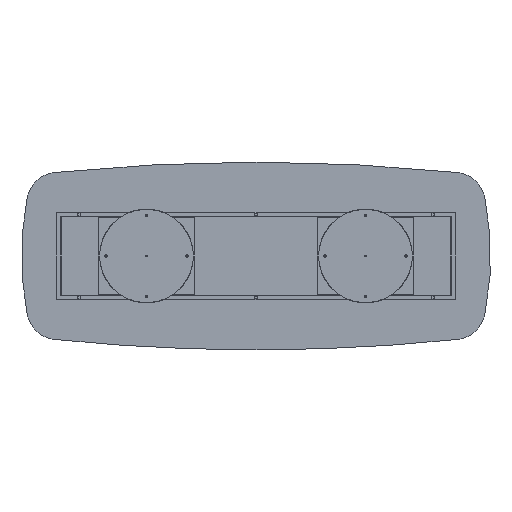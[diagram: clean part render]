
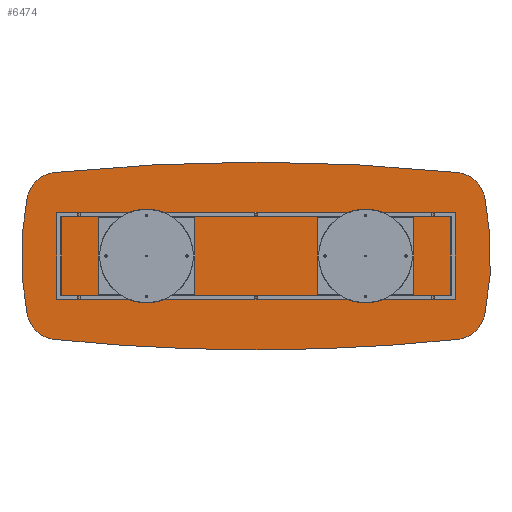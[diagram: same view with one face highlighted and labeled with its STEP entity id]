
A CAD part, front view. The second image highlights one B-rep face of the part: STEP entity #6474.
In plain terms, the highlighted planar face has unit normal (0, -1, 0).
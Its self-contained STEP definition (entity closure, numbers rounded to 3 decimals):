
#158 = CIRCLE ( 'NONE', #8397, 12500. ) ;
#172 = AXIS2_PLACEMENT_3D ( 'NONE', #3042, #337, #10621 ) ;
#304 = DIRECTION ( 'NONE',  ( 0., 0., 1. ) ) ;
#337 = DIRECTION ( 'NONE',  ( 0., 1., 0. ) ) ;
#363 = ORIENTED_EDGE ( 'NONE', *, *, #8577, .F. ) ;
#617 = EDGE_CURVE ( 'NONE', #10071, #10740, #6760, .T. ) ;
#678 = FACE_OUTER_BOUND ( 'NONE', #8168, .T. ) ;
#717 = AXIS2_PLACEMENT_3D ( 'NONE', #4534, #8177, #11202 ) ;
#1010 = CARTESIAN_POINT ( 'NONE',  ( -1462.835, 0., 373.961 ) ) ;
#1140 = CIRCLE ( 'NONE', #2910, 200. ) ;
#1155 = CIRCLE ( 'NONE', #8029, 1900. ) ;
#1316 = VERTEX_POINT ( 'NONE', #8566 ) ;
#1348 = VERTEX_POINT ( 'NONE', #1373 ) ;
#1373 = CARTESIAN_POINT ( 'NONE',  ( 1462.835, 0., -373.961 ) ) ;
#1411 = DIRECTION ( 'NONE',  ( 0., 0., 1. ) ) ;
#2207 = CARTESIAN_POINT ( 'NONE',  ( 1266.747, 0., 334.597 ) ) ;
#2443 = AXIS2_PLACEMENT_3D ( 'NONE', #5395, #9186, #3697 ) ;
#2459 = ORIENTED_EDGE ( 'NONE', *, *, #9929, .T. ) ;
#2500 = EDGE_CURVE ( 'NONE', #3304, #1316, #3268, .T. ) ;
#2779 = EDGE_CURVE ( 'NONE', #10071, #2920, #4047, .T. ) ;
#2910 = AXIS2_PLACEMENT_3D ( 'NONE', #2207, #8610, #5953 ) ;
#2920 = VERTEX_POINT ( 'NONE', #1010 ) ;
#3042 = CARTESIAN_POINT ( 'NONE',  ( -400., 0., 0. ) ) ;
#3131 = CARTESIAN_POINT ( 'NONE',  ( -1266.747, 0., 334.597 ) ) ;
#3240 = DIRECTION ( 'NONE',  ( 0., -1., 0. ) ) ;
#3265 = AXIS2_PLACEMENT_3D ( 'NONE', #10761, #5371, #9047 ) ;
#3268 = CIRCLE ( 'NONE', #717, 200. ) ;
#3304 = VERTEX_POINT ( 'NONE', #8889 ) ;
#3363 = DIRECTION ( 'NONE',  ( 0., 0., 1. ) ) ;
#3389 = PLANE ( 'NONE',  #10095 ) ;
#3697 = DIRECTION ( 'NONE',  ( 0., 0., 1. ) ) ;
#4047 = CIRCLE ( 'NONE', #6014, 200. ) ;
#4106 = CARTESIAN_POINT ( 'NONE',  ( 0., 0., 11900. ) ) ;
#4131 = CARTESIAN_POINT ( 'NONE',  ( 1287.344, 0., -533.533 ) ) ;
#4231 = DIRECTION ( 'NONE',  ( 0., 0., 1. ) ) ;
#4534 = CARTESIAN_POINT ( 'NONE',  ( -1266.747, 0., -334.597 ) ) ;
#5190 = DIRECTION ( 'NONE',  ( 0., 0., 1. ) ) ;
#5371 = DIRECTION ( 'NONE',  ( 0., 1., 0. ) ) ;
#5395 = CARTESIAN_POINT ( 'NONE',  ( 0., 0., -11900. ) ) ;
#5737 = CARTESIAN_POINT ( 'NONE',  ( 1287.344, 0., 533.533 ) ) ;
#5816 = ORIENTED_EDGE ( 'NONE', *, *, #617, .F. ) ;
#5910 = CARTESIAN_POINT ( 'NONE',  ( 0., 0., -600. ) ) ;
#5953 = DIRECTION ( 'NONE',  ( 0., 0., 1. ) ) ;
#6014 = AXIS2_PLACEMENT_3D ( 'NONE', #3131, #3240, #5190 ) ;
#6071 = DIRECTION ( 'NONE',  ( 0., -1., 0. ) ) ;
#6126 = CARTESIAN_POINT ( 'NONE',  ( 1266.747, 0., -334.597 ) ) ;
#6167 = CARTESIAN_POINT ( 'NONE',  ( 400., 0., 0. ) ) ;
#6310 = ORIENTED_EDGE ( 'NONE', *, *, #6888, .T. ) ;
#6474 = ADVANCED_FACE ( 'NONE', ( #678 ), #3389, .F. ) ;
#6760 = CIRCLE ( 'NONE', #2443, 12500. ) ;
#6888 = EDGE_CURVE ( 'NONE', #7767, #1348, #11281, .T. ) ;
#6981 = DIRECTION ( 'NONE',  ( 0., 1., 0. ) ) ;
#7000 = DIRECTION ( 'NONE',  ( 0., 1., 0. ) ) ;
#7077 = VERTEX_POINT ( 'NONE', #8777 ) ;
#7431 = CARTESIAN_POINT ( 'NONE',  ( -1287.344, 0., 533.533 ) ) ;
#7767 = VERTEX_POINT ( 'NONE', #4131 ) ;
#8002 = DIRECTION ( 'NONE',  ( 0., 1., 0. ) ) ;
#8029 = AXIS2_PLACEMENT_3D ( 'NONE', #6167, #6981, #3363 ) ;
#8059 = ORIENTED_EDGE ( 'NONE', *, *, #2500, .T. ) ;
#8168 = EDGE_LOOP ( 'NONE', ( #5816, #11840, #11869, #8059, #363, #10920, #6310, #11184, #2459 ) ) ;
#8177 = DIRECTION ( 'NONE',  ( 0., -1., 0. ) ) ;
#8228 = CIRCLE ( 'NONE', #172, 1900. ) ;
#8397 = AXIS2_PLACEMENT_3D ( 'NONE', #4106, #7000, #304 ) ;
#8562 = CIRCLE ( 'NONE', #3265, 12500. ) ;
#8566 = CARTESIAN_POINT ( 'NONE',  ( -1287.344, 0., -533.533 ) ) ;
#8577 = EDGE_CURVE ( 'NONE', #9397, #1316, #8562, .T. ) ;
#8610 = DIRECTION ( 'NONE',  ( 0., -1., 0. ) ) ;
#8777 = CARTESIAN_POINT ( 'NONE',  ( 1462.835, 0., 373.961 ) ) ;
#8889 = CARTESIAN_POINT ( 'NONE',  ( -1462.835, 0., -373.961 ) ) ;
#9047 = DIRECTION ( 'NONE',  ( 0., 0., 1. ) ) ;
#9186 = DIRECTION ( 'NONE',  ( 0., 1., 0. ) ) ;
#9397 = VERTEX_POINT ( 'NONE', #5910 ) ;
#9820 = EDGE_CURVE ( 'NONE', #7767, #9397, #158, .T. ) ;
#9929 = EDGE_CURVE ( 'NONE', #7077, #10740, #1140, .T. ) ;
#9977 = CARTESIAN_POINT ( 'NONE',  ( -200., 0., 5950. ) ) ;
#10071 = VERTEX_POINT ( 'NONE', #7431 ) ;
#10095 = AXIS2_PLACEMENT_3D ( 'NONE', #9977, #8002, #4231 ) ;
#10428 = EDGE_CURVE ( 'NONE', #3304, #2920, #1155, .T. ) ;
#10621 = DIRECTION ( 'NONE',  ( 0., 0., 1. ) ) ;
#10740 = VERTEX_POINT ( 'NONE', #5737 ) ;
#10761 = CARTESIAN_POINT ( 'NONE',  ( 0., 0., 11900. ) ) ;
#10892 = AXIS2_PLACEMENT_3D ( 'NONE', #6126, #6071, #1411 ) ;
#10920 = ORIENTED_EDGE ( 'NONE', *, *, #9820, .F. ) ;
#11184 = ORIENTED_EDGE ( 'NONE', *, *, #12102, .F. ) ;
#11202 = DIRECTION ( 'NONE',  ( 0., 0., 1. ) ) ;
#11281 = CIRCLE ( 'NONE', #10892, 200. ) ;
#11840 = ORIENTED_EDGE ( 'NONE', *, *, #2779, .T. ) ;
#11869 = ORIENTED_EDGE ( 'NONE', *, *, #10428, .F. ) ;
#12102 = EDGE_CURVE ( 'NONE', #7077, #1348, #8228, .T. ) ;
